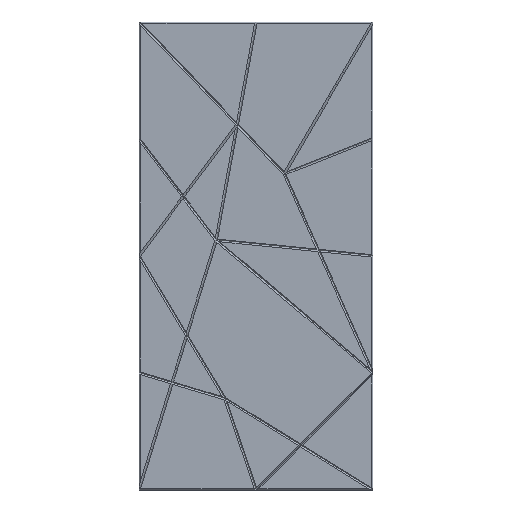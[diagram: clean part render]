
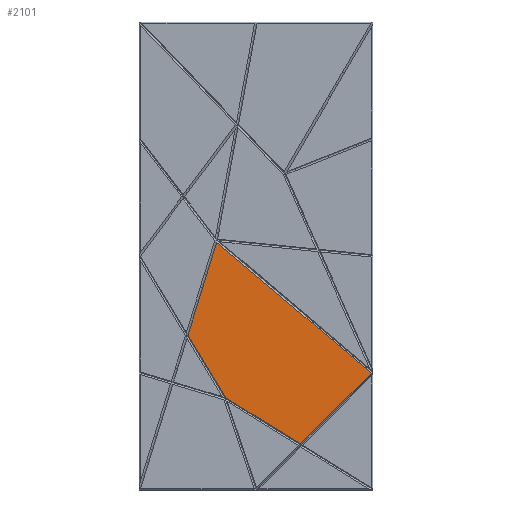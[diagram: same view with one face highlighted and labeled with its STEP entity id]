
A CAD part, top view. The second image highlights one B-rep face of the part: STEP entity #2101.
In plain terms, the highlighted planar face has unit normal (0, 0, 1).
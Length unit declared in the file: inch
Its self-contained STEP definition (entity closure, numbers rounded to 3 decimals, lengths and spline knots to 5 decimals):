
#170=FACE_OUTER_BOUND('',#299,.T.);
#299=EDGE_LOOP('',(#1783,#1784,#1785,#1786,#1787));
#478=LINE('',#3230,#741);
#481=LINE('',#3235,#744);
#483=LINE('',#3239,#746);
#485=LINE('',#3243,#748);
#486=LINE('',#3245,#749);
#741=VECTOR('',#2602,0.3937);
#744=VECTOR('',#2607,0.3937);
#746=VECTOR('',#2611,0.3937);
#748=VECTOR('',#2615,0.3937);
#749=VECTOR('',#2618,0.3937);
#973=VERTEX_POINT('',#3227);
#974=VERTEX_POINT('',#3229);
#975=VERTEX_POINT('',#3233);
#976=VERTEX_POINT('',#3237);
#977=VERTEX_POINT('',#3241);
#1195=EDGE_CURVE('',#974,#973,#478,.T.);
#1198=EDGE_CURVE('',#973,#975,#481,.T.);
#1200=EDGE_CURVE('',#975,#976,#483,.T.);
#1202=EDGE_CURVE('',#976,#977,#485,.T.);
#1203=EDGE_CURVE('',#977,#974,#486,.T.);
#1783=ORIENTED_EDGE('',*,*,#1195,.T.);
#1784=ORIENTED_EDGE('',*,*,#1198,.T.);
#1785=ORIENTED_EDGE('',*,*,#1200,.T.);
#1786=ORIENTED_EDGE('',*,*,#1202,.T.);
#1787=ORIENTED_EDGE('',*,*,#1203,.T.);
#1972=PLANE('',#2275);
#2101=ADVANCED_FACE('',(#170),#1972,.T.);
#2275=AXIS2_PLACEMENT_3D('',#3427,#2806,#2807);
#2602=DIRECTION('',(0.707,0.707,0.));
#2607=DIRECTION('',(-0.763,0.646,0.));
#2611=DIRECTION('',(-0.295,-0.956,0.));
#2615=DIRECTION('',(0.516,-0.857,0.));
#2618=DIRECTION('',(0.851,-0.525,0.));
#2806=DIRECTION('center_axis',(0.,0.,1.));
#2807=DIRECTION('ref_axis',(1.,0.,0.));
#3227=CARTESIAN_POINT('',(48.70007,25.03924,0.5));
#3229=CARTESIAN_POINT('',(34.18681,10.52597,0.5));
#3230=CARTESIAN_POINT('',(41.53948,17.87864,0.5));
#3233=CARTESIAN_POINT('',(17.01115,51.86627,0.5));
#3235=CARTESIAN_POINT('',(35.8958,35.87901,0.5));
#3237=CARTESIAN_POINT('',(11.13298,32.81852,0.5));
#3239=CARTESIAN_POINT('',(16.96535,51.71786,0.5));
#3241=CARTESIAN_POINT('',(18.86251,19.97638,0.5));
#3243=CARTESIAN_POINT('',(9.39922,35.69906,0.5));
#3245=CARTESIAN_POINT('',(14.61495,22.59583,0.5));
#3427=CARTESIAN_POINT('Origin',(25.06892,49.05453,0.5));
